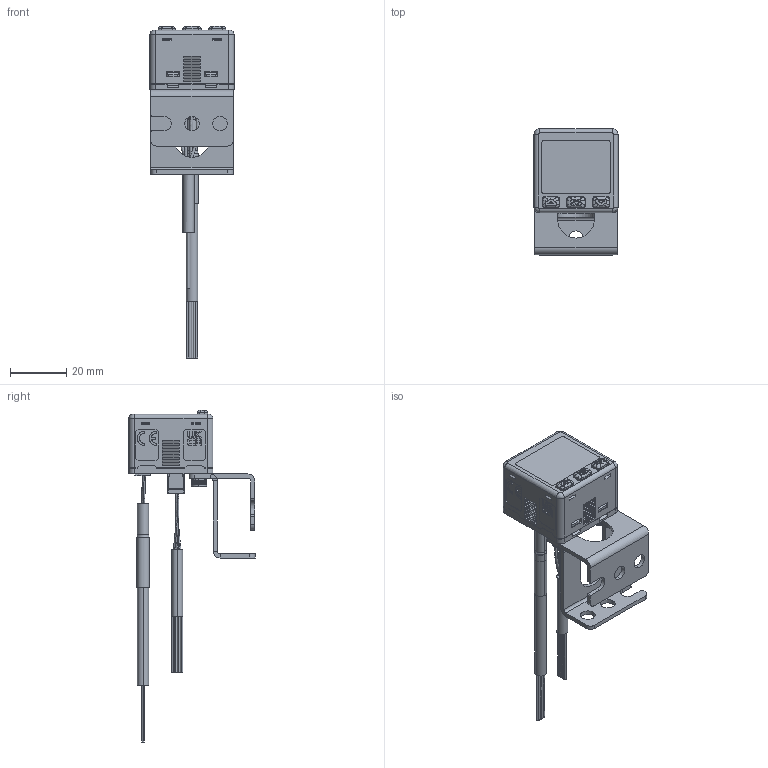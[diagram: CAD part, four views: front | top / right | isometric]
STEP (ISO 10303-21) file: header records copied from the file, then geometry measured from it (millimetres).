
FILE_DESCRIPTION (( 'STEP AP203' ), '1' );
FILE_NAME ('kp400E-A.STEP', '2026-04-24T08:01:06', ( '' ), ( '' ), 'SwSTEP 2.0', 'SolidWorks 2022', '' );
FILE_SCHEMA (( 'CONFIG_CONTROL_DESIGN' ));
Length unit declared in the file: millimetre
Products named in the file (28): SCR-0090; P-0746_P-0746_C2WEC; CN-0046A; P-0744; P-0342; EK-04P; i-0589.prt; eo-0031-05-01-02.asm; BT-18.BT-19; P-0445; cn-0048a_series.asm; w-0085.prt; hexagon socket head cap screw_jis_JIS B 1176 M3 x 5 (5) --N; i-0408; w-0074-03.prt; P-0766; LCD-0033; P-0765; cn-0048a_series; kp400E-A; I-0409A; I-0408A; P-0544; eo-0105.prt; i-0409; BT-31.BT-32; cn-0048_pap-05v-s.prt; W-0074-02_CN_0046A
Assembly tree (32 placements, depth 5):
  kp400E-A
    P-0766
    P-0744
    P-0765
    P-0342
    P-0544
    LCD-0033
    P-0445
    P-0746_P-0746_C2WEC
    cn-0048a_series
      cn-0048a_series.asm
        i-0589.prt  x4
        eo-0031-05-01-02.asm
          w-0085.prt
        eo-0105.prt
        w-0074-03.prt
        cn-0048_pap-05v-s.prt
    CN-0046A
      EK-04P
      W-0074-02_CN_0046A
    BT-18.BT-19
      i-0409
      i-0408
      hexagon socket head cap screw_jis_JIS B 1176 M3 x 5 (5) --N  x2
    BT-31.BT-32
      I-0409A
      I-0408A
      SCR-0090  x2
Bounding box: 30 x 45.1 x 118.55 mm (x, y, z)
Volume: 17226.2 mm3; surface area: 37120.8 mm2
Topology: 29 solids, 138 shells, 5581 faces, 15749 edges, 10515 vertices
Faces by surface type: plane 4420, cylinder 629, bspline 353, cone 153, torus 16, sphere 10
Entity records: 192139 total; most frequent: CARTESIAN_POINT 59252, ORIENTED_EDGE 28201, DIRECTION 23549, EDGE_CURVE 14430, VECTOR 11875, LINE 11875, VERTEX_POINT 9718, EDGE_LOOP 5885
